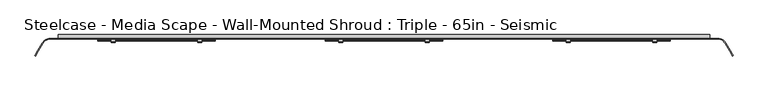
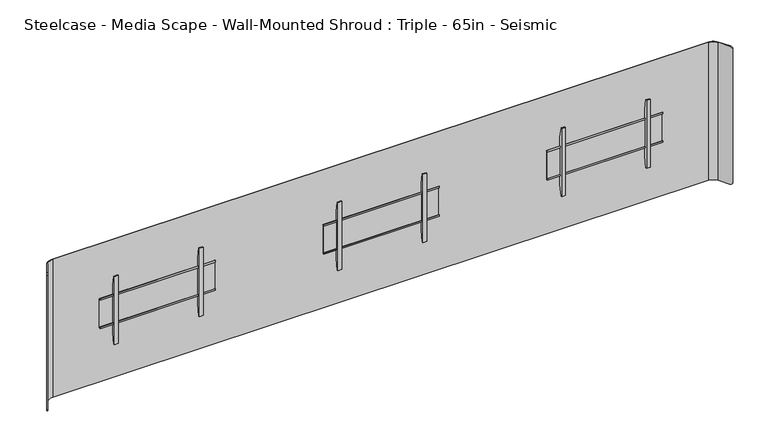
"""IFC4 building model written with IfcOpenShell, lengths in millimetres: furniture geometry, Steelcase - Media Scape - Wall-Mounted Shroud : Triple - 65in - Seismic."""

from ifc_helpers import new_model, si_unit, frame, origin, place, context, project, spatial, polyline, circle_curve, outline, extrude, source, transform, mapped, element, save
from ifc_brep_helpers import plane_surface, cylinder_surface, revolved_surface, advanced_brep


def steelcase_media_scape_wall_mounted_shroud_triple_65in_e049d22b(model_context):
    return source(origin(), model_context, "Body", "SolidModel", [
        extrude(outline(polyline([(-42.4942785, 1453.5504726), (-42.4942785, 1465.5645649), (-39.8272175, 1465.5645649), (-39.8272175, 1456.217461), (-29.9720009, 1456.217461), (-29.9720009, 1241.8922438), (-42.3164551, 1241.8922438), (-42.3164551, 1252.8142515), (-39.649394, 1252.8142515), (-39.649394, 1244.557052), (-32.6531824, 1244.557052), (-32.6531824, 1453.5504726), (-42.4942785, 1453.5504726)])), frame((1171.575, 0.0, 0.0), z_axis=(1.0, 0.0, 0.0), x_axis=(0.0, 1.0, 0.0)), (0.0, 0.0, 1.0), 812.8),
        extrude(outline(polyline([(-32.6531824, 1524.4971148), (-32.6531824, 1172.6825607), (-46.5049349, 1095.0546949), (-53.3399828, 1095.0546949), (-53.3399828, 1603.0547192), (-46.5050076, 1603.0547192), (-32.6531824, 1524.4971148)])), frame((1265.176426, 0.0, 0.0), z_axis=(1.0, 0.0, 0.0), x_axis=(0.0, 1.0, 0.0)), (0.0, 0.0, 1.0), 26.1592872),
        extrude(outline(polyline([(-32.6531824, 1524.4971148), (-32.6531824, 1172.6825607), (-46.5049349, 1095.0546949), (-53.3399828, 1095.0546949), (-53.3399828, 1603.0547192), (-46.5050076, 1603.0547192), (-32.6531824, 1524.4971148)])), frame((1864.6142868, 0.0, 0.0), z_axis=(1.0, 0.0, 0.0), x_axis=(0.0, 1.0, 0.0)), (0.0, 0.0, 1.0), 26.1592872),
        extrude(outline(polyline([(-42.4942785, 1453.5504726), (-42.4942785, 1465.5645649), (-39.8272175, 1465.5645649), (-39.8272175, 1456.217461), (-29.9720009, 1456.217461), (-29.9720009, 1241.8922438), (-42.3164551, 1241.8922438), (-42.3164551, 1252.8142515), (-39.649394, 1252.8142515), (-39.649394, 1244.557052), (-32.6531824, 1244.557052), (-32.6531824, 1453.5504726), (-42.4942785, 1453.5504726)])), frame((-1984.375, 0.0, 0.0), z_axis=(1.0, 0.0, 0.0), x_axis=(0.0, 1.0, 0.0)), (0.0, 0.0, 1.0), 812.8),
        extrude(outline(polyline([(-32.6531824, 1524.4971148), (-32.6531824, 1172.6825607), (-46.5049349, 1095.0546949), (-53.3399828, 1095.0546949), (-53.3399828, 1603.0547192), (-46.5050076, 1603.0547192), (-32.6531824, 1524.4971148)])), frame((-1291.3357132, 0.0, 0.0), z_axis=(1.0, 0.0, 0.0), x_axis=(0.0, 1.0, 0.0)), (0.0, 0.0, 1.0), 26.1592872),
        extrude(outline(polyline([(-32.6531824, 1524.4971148), (-32.6531824, 1172.6825607), (-46.5049349, 1095.0546949), (-53.3399828, 1095.0546949), (-53.3399828, 1603.0547192), (-46.5050076, 1603.0547192), (-32.6531824, 1524.4971148)])), frame((-1890.773574, 0.0, 0.0), z_axis=(1.0, 0.0, 0.0), x_axis=(0.0, 1.0, 0.0)), (0.0, 0.0, 1.0), 26.1592872),
        extrude(outline(polyline([(-42.4942785, 1453.5504726), (-42.4942785, 1465.5645649), (-39.8272175, 1465.5645649), (-39.8272175, 1456.217461), (-29.9720009, 1456.217461), (-29.9720009, 1241.8922438), (-42.3164551, 1241.8922438), (-42.3164551, 1252.8142515), (-39.649394, 1252.8142515), (-39.649394, 1244.557052), (-32.6531824, 1244.557052), (-32.6531824, 1453.5504726), (-42.4942785, 1453.5504726)])), frame((-406.4, 0.0, 0.0), z_axis=(1.0, 0.0, 0.0), x_axis=(0.0, 1.0, 0.0)), (0.0, 0.0, 1.0), 812.8),
        extrude(outline(polyline([(-32.6531824, 1524.4971148), (-32.6531824, 1172.6825607), (-46.5049349, 1095.0546949), (-53.3399828, 1095.0546949), (-53.3399828, 1603.0547192), (-46.5050076, 1603.0547192), (-32.6531824, 1524.4971148)])), frame((286.6392868, 0.0, 0.0), z_axis=(1.0, 0.0, 0.0), x_axis=(0.0, 1.0, 0.0)), (0.0, 0.0, 1.0), 26.1592872),
        extrude(outline(polyline([(-32.6531824, 1524.4971148), (-32.6531824, 1172.6825607), (-46.5049349, 1095.0546949), (-53.3399828, 1095.0546949), (-53.3399828, 1603.0547192), (-46.5050076, 1603.0547192), (-32.6531824, 1524.4971148)])), frame((-312.798574, 0.0, 0.0), z_axis=(1.0, 0.0, 0.0), x_axis=(0.0, 1.0, 0.0)), (0.0, 0.0, 1.0), 26.1592872),
        extrude(outline(polyline([(2260.6, -25.4), (-2260.6, -25.4), (-2260.6, 0.0), (2260.6, 0.0), (2260.6, -25.4)])), frame((0.0, 0.0, 835.914), z_axis=(0.0, 0.0, 1.0), x_axis=(1.0, 0.0, 0.0)), (0.0, 0.0, 1.0), 76.2508167),
        advanced_brep(
        [(-2367.4086135, -61.722, 1864.614), (-2312.416002, -29.9720009, 1864.614), (2312.416, -29.9720009, 1864.614), (2367.4086135, -61.722, 1864.614), (2407.529586, -131.2135628, 1864.614), (2411.4890541, -128.9275628, 1864.614), (2371.3680817, -59.436, 1864.614), (2312.416002, -25.4, 1864.614), (-2312.416, -25.4, 1864.614), (-2371.3680817, -59.436, 1864.614), (-2411.4921659, -128.9329524, 1864.614), (-2407.5326977, -131.2189524, 1864.614), (-2371.3680817, -59.436, 835.914), (-2312.416002, -25.4, 835.914), (2312.416, -25.4, 835.914), (2371.3680817, -59.436, 835.914), (2411.5406629, -129.0169518, 835.914), (2407.5811948, -131.3029518, 835.914), (2367.4086135, -61.722, 835.914), (2312.416002, -29.9720009, 835.914), (-2312.416, -29.9720009, 835.914), (-2367.4086135, -61.722, 835.914), (-2407.5954014, -131.3275584, 835.914), (-2411.5548695, -129.0415584, 835.914), (-2421.0590632, -145.5033047, 849.5242766), (-2421.0590632, -145.5033047, 1850.6227735), (-2417.0995951, -147.7893047, 1850.6227735), (-2417.0995951, -147.7893047, 849.5242766), (2417.0770866, -147.7503189, 849.4756893), (2417.0770866, -147.7503189, 1850.7433849), (2421.0365547, -145.4643189, 1850.7433849), (2421.0365547, -145.4643189, 849.4756893)],
        [
            (0, 1, circle_curve(frame((-2312.416002, -93.4719991, 1864.614), z_axis=(0.0, 0.0, -1.0), x_axis=(0.0, 1.0, 0.0)), 63.4999981)),
            (1, 2),
            (2, 3, circle_curve(frame((2312.416002, -93.4719991, 1864.614), z_axis=(0.0, 0.0, -1.0), x_axis=(0.0, 1.0, 0.0)), 63.4999981)),
            (3, 4),
            (4, 5),
            (5, 6),
            (6, 7, circle_curve(frame((2312.4160004, -93.472, 1864.614), z_axis=(0.0, 0.0, 1.0), x_axis=(0.0, 1.0, 0.0)), 68.072)),
            (7, 8),
            (8, 9, circle_curve(frame((-2312.4160004, -93.472, 1864.614), z_axis=(0.0, 0.0, 1.0), x_axis=(0.0, 1.0, 0.0)), 68.072)),
            (9, 10),
            (10, 11),
            (11, 0),
            (12, 13, circle_curve(frame((-2312.4160004, -93.472, 835.914), z_axis=(0.0, 0.0, -1.0), x_axis=(0.0, 1.0, 0.0)), 68.072)),
            (13, 14),
            (14, 15, circle_curve(frame((2312.4160004, -93.472, 835.914), z_axis=(0.0, 0.0, -1.0), x_axis=(0.0, 1.0, 0.0)), 68.072)),
            (15, 16),
            (16, 17),
            (17, 18),
            (18, 19, circle_curve(frame((2312.416002, -93.4719991, 835.914), z_axis=(0.0, 0.0, 1.0), x_axis=(0.0, 1.0, 0.0)), 63.4999981)),
            (19, 20),
            (20, 21, circle_curve(frame((-2312.416002, -93.4719991, 835.914), z_axis=(0.0, 0.0, 1.0), x_axis=(0.0, 1.0, 0.0)), 63.4999981)),
            (21, 22),
            (22, 23),
            (23, 12),
            (0, 21),
            (20, 1),
            (8, 13),
            (12, 9),
            (23, 24, circle_curve(frame((-2411.5548695, -129.0415584, 855.9928872), z_axis=(-0.8660254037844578, 0.4999999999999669, 0.0), x_axis=(-0.4999999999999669, -0.8660254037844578, 0.0)), 20.0788872)),
            (24, 25),
            (25, 10, circle_curve(frame((-2411.4921659, -128.9329524, 1844.5351128), z_axis=(-0.866025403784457, 0.49999999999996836, 0.0), x_axis=(-0.49999999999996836, -0.866025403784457, 0.0)), 20.0788872)),
            (26, 25),
            (24, 27),
            (27, 26),
            (11, 26, circle_curve(frame((-2407.5326977, -131.2189524, 1844.5351128), z_axis=(0.866025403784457, -0.49999999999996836, 0.0), x_axis=(-0.49999999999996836, -0.866025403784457, 0.0)), 20.0788872)),
            (27, 22, circle_curve(frame((-2407.5954014, -131.3275584, 855.9928872), z_axis=(0.8660254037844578, -0.4999999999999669, 0.0), x_axis=(-0.4999999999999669, -0.8660254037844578, 0.0)), 20.0788872)),
            (7, 14),
            (19, 2),
            (3, 18),
            (17, 28, circle_curve(frame((2407.5811948, -131.3029518, 855.9928872), z_axis=(-0.8660254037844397, -0.4999999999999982, 0.0), x_axis=(0.4999999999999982, -0.8660254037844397, 0.0)), 20.0788872)),
            (28, 29),
            (29, 4, circle_curve(frame((2407.529586, -131.2135628, 1844.5351128), z_axis=(-0.8660254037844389, -0.49999999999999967, 0.0), x_axis=(0.49999999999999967, -0.8660254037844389, 0.0)), 20.0788872)),
            (30, 29),
            (28, 31),
            (31, 30),
            (15, 6),
            (5, 30, circle_curve(frame((2411.4890541, -128.9275628, 1844.5351128), z_axis=(0.8660254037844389, 0.49999999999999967, 0.0), x_axis=(0.49999999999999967, -0.8660254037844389, 0.0)), 20.0788872)),
            (31, 16, circle_curve(frame((2411.5406629, -129.0169518, 855.9928872), z_axis=(0.8660254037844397, 0.4999999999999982, 0.0), x_axis=(0.4999999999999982, -0.8660254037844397, 0.0)), 20.0788872)),
        ],
        [
            plane_surface(frame((-2312.416002, -29.9720009, 1864.614), z_axis=(0.0, 0.0, 1.0), x_axis=(1.0, 0.0, 0.0))),
            plane_surface(frame((-2312.416002, -29.9720009, 835.914), z_axis=(0.0, 0.0, -1.0), x_axis=(-1.0, 0.0, 0.0))),
            revolved_surface(polyline([(-2312.416002, -29.972001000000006, 835.914), (-2312.416002, -29.972001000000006, 1864.614)]), (-2312.416002, -93.4719991, 835.914), (0.0, 0.0, -1.0)),
            cylinder_surface(frame((-2312.4160004, -93.472, 835.914), z_axis=(0.0, 0.0, 1.0), x_axis=(0.0, 1.0, 0.0)), 68.072),
            plane_surface(frame((-2371.3680817, -59.436, 1864.614), z_axis=(-0.8660254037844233, 0.5000000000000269, 0.0), x_axis=(0.0, 0.0, -1.0))),
            plane_surface(frame((-2421.0590632, -145.5033047, 1864.614), z_axis=(-0.5000000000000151, -0.86602540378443, 0.0), x_axis=(0.0, 0.0, -1.0))),
            plane_surface(frame((-2417.0995951, -147.7893047, 1864.614), z_axis=(0.8660254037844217, -0.5000000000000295, 0.0), x_axis=(0.0, 0.0, -1.0))),
            plane_surface(frame((2312.416, -25.4, 1864.614), z_axis=(0.0, 1.0, 0.0), x_axis=(0.0, 0.0, -1.0))),
            plane_surface(frame((-2312.416, -29.9720009, 1864.614), z_axis=(0.0, -1.0, 0.0), x_axis=(0.0, 0.0, -1.0))),
            plane_surface(frame((2367.4086135, -61.722, 1864.614), z_axis=(-0.8660254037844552, -0.4999999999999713, 0.0), x_axis=(0.0, 0.0, -1.0))),
            plane_surface(frame((2417.0770866, -147.7503189, 1864.614), z_axis=(0.4999999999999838, -0.866025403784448, 0.0), x_axis=(0.0, 0.0, -1.0))),
            plane_surface(frame((2421.0365547, -145.4643189, 1864.614), z_axis=(0.8660254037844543, 0.4999999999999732, 0.0), x_axis=(0.0, 0.0, -1.0))),
            cylinder_surface(frame((2312.4160004, -93.472, 835.914), z_axis=(0.0, 0.0, 1.0), x_axis=(0.0, 1.0, 0.0)), 68.072),
            revolved_surface(polyline([(2312.416002, -29.972001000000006, 835.914), (2312.416002, -29.972001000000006, 1864.614)]), (2312.416002, -93.4719991, 835.914), (0.0, 0.0, -1.0)),
            cylinder_surface(frame((-2407.5326977, -131.2189524, 1844.5351128), z_axis=(0.866025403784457, -0.49999999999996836, 0.0), x_axis=(-0.49999999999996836, -0.866025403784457, 0.0)), 20.0788872),
            cylinder_surface(frame((-2407.5954014, -131.3275584, 855.9928872), z_axis=(0.8660254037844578, -0.4999999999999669, 0.0), x_axis=(-0.4999999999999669, -0.8660254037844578, 0.0)), 20.0788872),
            cylinder_surface(frame((2422.6364297, -122.4916225, 1844.5351128), z_axis=(0.8660254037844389, 0.49999999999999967, 0.0), x_axis=(0.49999999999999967, -0.8660254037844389, 0.0)), 20.0788872),
            cylinder_surface(frame((2419.8289695, -124.2316958, 855.9928872), z_axis=(0.8660254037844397, 0.4999999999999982, 0.0), x_axis=(0.4999999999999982, -0.8660254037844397, 0.0)), 20.0788872),
        ],
        [
            (0, [[1, 2, 3, 4, 5, 6, 7, 8, 9, 10, 11, 12]]),
            (1, [[13, 14, 15, 16, 17, 18, 19, 20, 21, 22, 23, 24]]),
            (2, [[-1, 25, -21, 26]]),
            (3, [[-9, 27, -13, 28]]),
            (4, [[-28, -24, 29, 30, 31, -10]]),
            (5, [[32, -30, 33, 34]]),
            (6, [[-25, -12, 35, -34, 36, -22]]),
            (7, [[-8, 37, -14, -27]]),
            (8, [[-2, -26, -20, 38]]),
            (9, [[39, -18, 40, 41, 42, -4]]),
            (10, [[43, -41, 44, 45]]),
            (11, [[46, -6, 47, -45, 48, -16]]),
            (12, [[-7, -46, -15, -37]]),
            (13, [[-3, -38, -19, -39]]),
            (14, [[-11, -31, -32, -35]]),
            (15, [[-23, -36, -33, -29]]),
            (16, [[-5, -42, -43, -47]]),
            (17, [[-17, -48, -44, -40]]),
        ],
    ),
        extrude(outline(polyline([(912.1648167, 2197.0999879), (912.1648167, 2260.6), (1788.414, 2260.6), (1788.414, -2260.6), (912.1648167, -2260.6), (912.1648167, -2198.0933465), (1724.9139516, -2198.0933465), (1724.9139516, 2197.0999879), (912.1648167, 2197.0999879)])), frame((0.0, -25.4, 0.0), z_axis=(0.0, 1.0, 0.0), x_axis=(0.0, 0.0, 1.0)), (0.0, 0.0, 1.0), 25.4),
    ])


if __name__ == "__main__":
    model = new_model("IFC4")
    model_context = context("Model", 3, world=origin())
    ifc_project = project(units=[si_unit("LENGTHUNIT", "METRE", prefix="MILLI")], contexts=[model_context])
    site = spatial("IfcSite", under=ifc_project)
    building = spatial("IfcBuilding", under=site)
    placement = place(None, origin())
    steelcase_media_scape_wall_mounted_shroud_triple_65in_shape = steelcase_media_scape_wall_mounted_shroud_triple_65in_e049d22b(model_context)
    element("IfcFurniture", 1, ObjectType="Steelcase - Media Scape - Wall-Mounted Shroud : Triple - 65in - Seismic", at=placement, inside=building, context=model_context, shape_type="MappedRepresentation", body=[
        mapped(steelcase_media_scape_wall_mounted_shroud_triple_65in_shape, transform((0.0, 0.0, 0.0), x_axis=(1.0, 0.0, 0.0), y_axis=(0.0, 1.0, 0.0), z_axis=(0.0, 0.0, 1.0))),
    ])
    save(model, "model.ifc")
